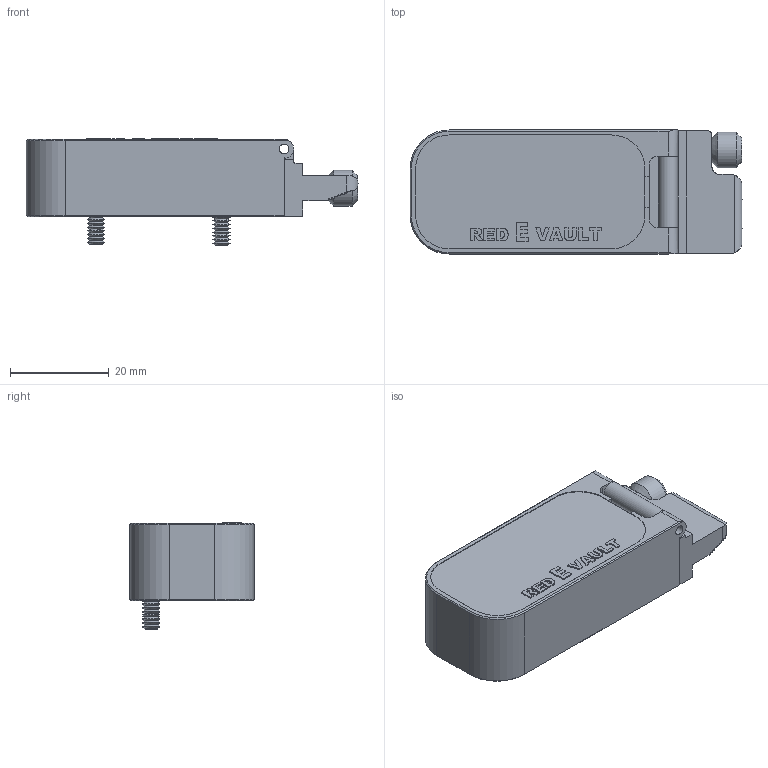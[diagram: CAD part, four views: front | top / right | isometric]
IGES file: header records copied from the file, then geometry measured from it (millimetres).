
Global section: file name:  ; native system: Kubotek KeyCreator; preprocessor: KCM Version 1.1.28; author: KeyCreator User; organization: Self; date: 20120524.003833; units: inch
Bounding box: 67.31 x 25.15 x 21.64 mm (x, y, z)
Volume: 16571.8 mm3; surface area: 14154 mm2
Topology: 21 solids, 21 shells, 670 faces, 1540 edges, 931 vertices
Faces by surface type: plane 273, cone 245, cylinder 107, bspline 25, extrusion 8, torus 8, sphere 4
Full cylindrical faces by diameter (mm): 1.727 x4, 1.981 x2, 2.097 x4, 2.184 x4, 2.362 x6, 2.489 x2, 2.718 x1, 3.505 x3, 3.785 x1, 3.912 x2, 4.242 x4, 5.74 x2, 6.096 x2, 7.264 x1
